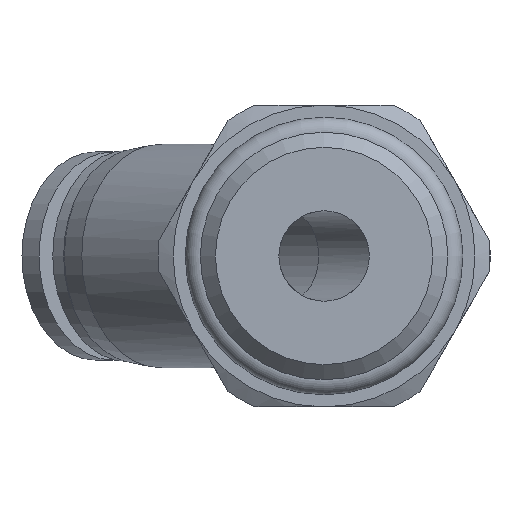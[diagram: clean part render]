
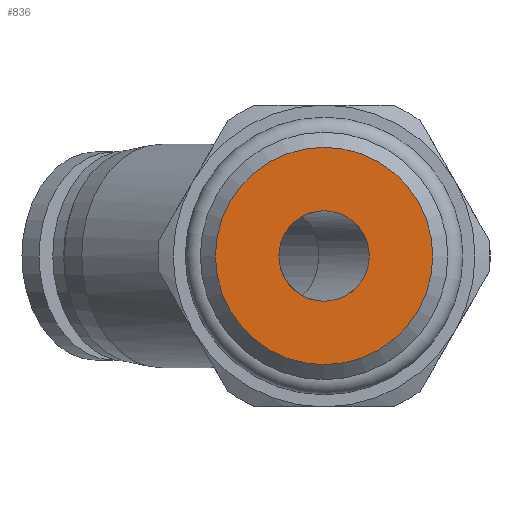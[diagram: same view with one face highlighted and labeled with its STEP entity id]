
A CAD part, front view. The second image highlights one B-rep face of the part: STEP entity #836.
In plain terms, the highlighted planar face has unit normal (0, -1, 0).
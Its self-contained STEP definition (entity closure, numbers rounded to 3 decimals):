
#39=FACE_BOUND('',#282,.T.);
#92=CIRCLE('',#900,3.);
#118=CIRCLE('',#957,7.2);
#199=FACE_OUTER_BOUND('',#281,.T.);
#281=EDGE_LOOP('',(#758));
#282=EDGE_LOOP('',(#759));
#406=VERTEX_POINT('',#1434);
#428=VERTEX_POINT('',#1513);
#508=EDGE_CURVE('',#406,#406,#92,.T.);
#537=EDGE_CURVE('',#428,#428,#118,.T.);
#758=ORIENTED_EDGE('',*,*,#537,.T.);
#759=ORIENTED_EDGE('',*,*,#508,.T.);
#777=PLANE('',#958);
#836=ADVANCED_FACE('',(#199,#39),#777,.T.);
#900=AXIS2_PLACEMENT_3D('',#1435,#1107,#1108);
#957=AXIS2_PLACEMENT_3D('',#1514,#1221,#1222);
#958=AXIS2_PLACEMENT_3D('',#1515,#1223,#1224);
#1107=DIRECTION('center_axis',(0.,1.,0.));
#1108=DIRECTION('ref_axis',(-1.,0.,0.));
#1221=DIRECTION('center_axis',(0.,-1.,0.));
#1222=DIRECTION('ref_axis',(1.,0.,0.));
#1223=DIRECTION('center_axis',(0.,-1.,0.));
#1224=DIRECTION('ref_axis',(0.,0.,-1.));
#1434=CARTESIAN_POINT('',(3.,0.,0.));
#1435=CARTESIAN_POINT('Origin',(0.,0.,0.));
#1513=CARTESIAN_POINT('',(7.2,0.,0.));
#1514=CARTESIAN_POINT('Origin',(0.,0.,
0.));
#1515=CARTESIAN_POINT('Origin',(0.,0.,0.));
